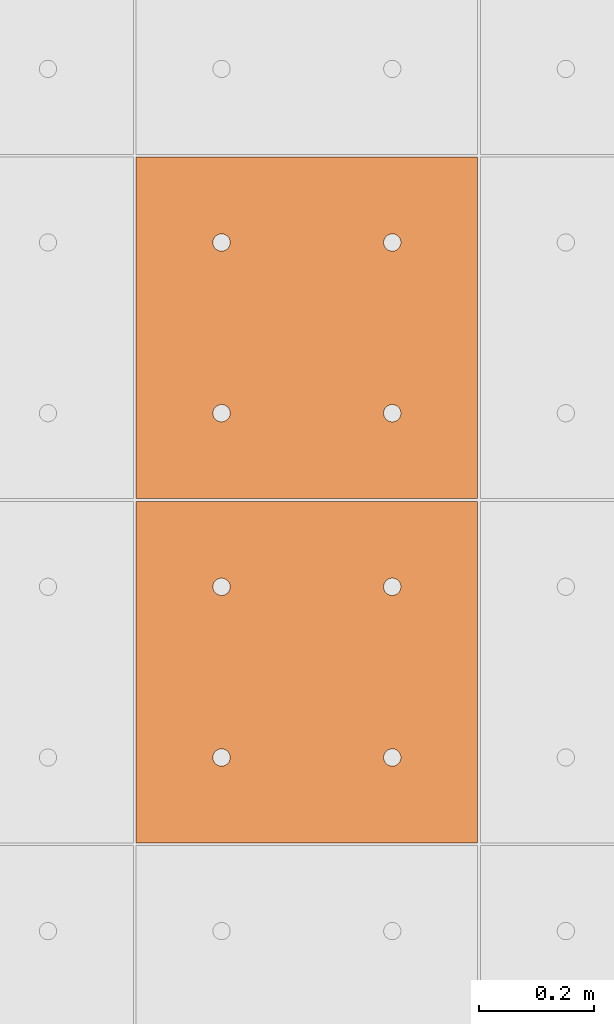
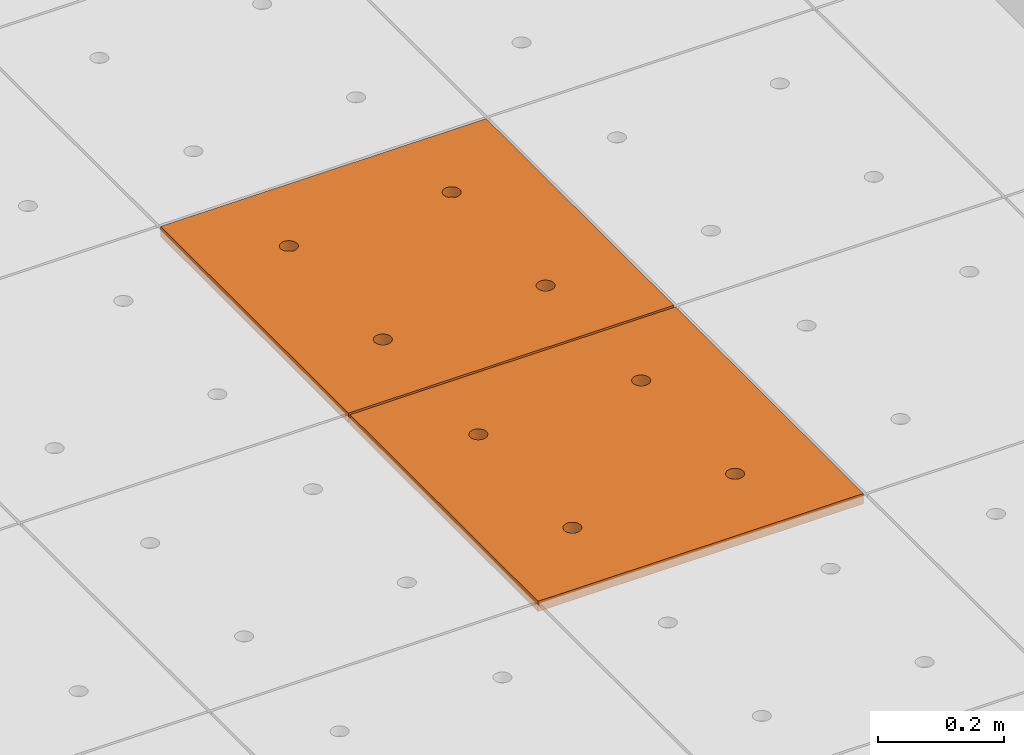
# One storey, part 227 of 338: 2 proxies, 1 element without a shape of its own.
"""IFC2X3 building model written with IfcOpenShell, lengths in millimetres."""

from ifc_helpers import new_model, entity, si_unit, converted_unit, derived_unit, money_unit, direction, frame, origin_with_axes, place, context, subcontext, project, spatial, faceted_brep, source, transform, mapped, material, type_object, type_shapes, element, aggregate, save


model = new_model("IFC2X3")

# Units and contexts
model_context = context("Model", 3, precision=0.01, world=origin_with_axes(), true_north=direction((0.0, 1.0)))
plan_context = context("Plan", 3, precision=0.01, world=origin_with_axes(), true_north=direction((0.0, 1.0)))
body_context = subcontext(model_context, "Body", "Model", "MODEL_VIEW")
ifc_project = project(units=[si_unit("LENGTHUNIT", "METRE", prefix="MILLI"), si_unit("AREAUNIT", "SQUARE_METRE"), si_unit("VOLUMEUNIT", "CUBIC_METRE"), converted_unit("PLANEANGLEUNIT", "DEGREE", entity("IfcPlaneAngleMeasure", 0.0174532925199), si_unit("PLANEANGLEUNIT", "RADIAN"), dimensions=[0, 0, 0, 0, 0, 0, 0]), money_unit("EUR"), converted_unit("TIMEUNIT", "Year", entity("IfcTimeMeasure", 31556926.0), si_unit("TIMEUNIT", "SECOND"), dimensions=[0, 0, 1, 0, 0, 0, 0]), si_unit("MASSUNIT", "GRAM", prefix="KILO"), si_unit("THERMODYNAMICTEMPERATUREUNIT", "DEGREE_CELSIUS"), si_unit("LUMINOUSINTENSITYUNIT", "LUMEN"), si_unit("ENERGYUNIT", "JOULE", prefix="MEGA"), derived_unit("THERMALCONDUCTANCEUNIT", [(si_unit("POWERUNIT", "WATT"), 1), (si_unit("LENGTHUNIT", "METRE"), -1), (si_unit("THERMODYNAMICTEMPERATUREUNIT", "KELVIN"), -1)]), derived_unit("SPECIFICHEATCAPACITYUNIT", [(si_unit("ENERGYUNIT", "JOULE"), 1), (si_unit("MASSUNIT", "GRAM", prefix="KILO"), -1), (si_unit("THERMODYNAMICTEMPERATUREUNIT", "KELVIN"), -1)]), derived_unit("MASSDENSITYUNIT", [(si_unit("MASSUNIT", "GRAM", prefix="KILO"), 1), (si_unit("VOLUMEUNIT", "CUBIC_METRE"), -1)])], contexts=[model_context, plan_context])

# Site, building, storey
site_placement = place(None, origin_with_axes())
site = spatial("IfcSite", under=ifc_project, at=site_placement, Name="Fortuinstraat Woensdrecht", CompositionType="ELEMENT")
building_placement = place(site_placement, origin_with_axes())
building = spatial("IfcBuilding", under=site, at=building_placement, Name="IKC Fortuna", CompositionType="ELEMENT")
storey_placement = place(building_placement, origin_with_axes())
storey = spatial("IfcBuildingStorey", under=building, at=storey_placement, Name="00 begane grond", CompositionType="ELEMENT", Elevation=0.0)

# Covering, proxies
covering_type = type_object("IfcCoveringType", Name="Curtain Wall Type", PredefinedType="CEILING")
covering_placement = place(storey_placement, frame((31656.9226967, 15748.5304598, 3210.0), z_axis=(0.0, 0.0, 1.0), x_axis=(1.0, 0.0, 0.0)))
covering = element("IfcCovering", 1, at=covering_placement, inside=storey, type_object=covering_type, Name="45_Plafondafwerking_P01", PredefinedType="CEILING")
ifc_material = material(Name="Gipsplaat")
building_element_proxy_type = type_object("IfcBuildingElementProxyType", Name="Main Panel 600 x 600 x 20", PredefinedType="NOTDEFINED")
shared_shape = source(origin_with_axes(), body_context, "Body", "Brep", [
    faceted_brep([(2.49999999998, 2.49999999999, -10.0), (300.0, 2.49999999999, -10.0), (300.0, 2.49999999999, 10.0), (2.49999999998, 2.49999999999, 10.0), (2.49999999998, 300.0, -10.0), (2.49999999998, 597.5, -10.0), (300.0, 597.5, -10.0), (597.5, 597.5, -10.0), (597.5, 300.0, -10.0), (597.5, 2.49999999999, -10.0), (166.25, 450.06232995, -10.0), (165.79423259, 452.64711538, -10.0), (164.896546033, 455.11348892, -10.0), (163.58421608, 457.38651108, -10.0), (161.897117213, 459.39711721, -10.0), (159.886511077, 461.08421608, -10.0), (157.613488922, 462.39654603, -10.0), (155.147115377, 463.29423259, -10.0), (152.562329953, 463.75, -10.0), (149.937670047, 463.75, -10.0), (147.352884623, 463.29423259, -10.0), (144.886511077, 462.39654603, -10.0), (142.613488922, 461.08421608, -10.0), (140.602882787, 459.39711721, -10.0), (138.91578392, 457.38651108, -10.0), (137.603453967, 455.11348892, -10.0), (136.705767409, 452.64711538, -10.0), (136.25, 450.06232995, -10.0), (136.25, 448.75, -10.0), (136.25, 447.43767005, -10.0), (136.705767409, 444.85288462, -10.0), (137.603453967, 442.38651108, -10.0), (138.91578392, 440.11348892, -10.0), (140.602882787, 438.10288279, -10.0), (142.613488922, 436.41578392, -10.0), (144.886511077, 435.10345397, -10.0), (147.352884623, 434.20576741, -10.0), (149.937670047, 433.75, -10.0), (152.562329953, 433.75, -10.0), (155.147115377, 434.20576741, -10.0), (157.613488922, 435.10345397, -10.0), (159.886511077, 436.41578392, -10.0), (161.897117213, 438.10288279, -10.0), (163.58421608, 440.11348892, -10.0), (164.896546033, 442.38651108, -10.0), (165.79423259, 444.85288462, -10.0), (166.25, 447.43767005, -10.0), (463.75, 450.06232995, -10.0), (463.29423259, 452.64711538, -10.0), (462.396546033, 455.11348892, -10.0), (461.08421608, 457.38651108, -10.0), (459.397117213, 459.39711721, -10.0), (457.386511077, 461.08421608, -10.0), (455.113488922, 462.39654603, -10.0), (452.647115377, 463.29423259, -10.0), (450.062329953, 463.75, -10.0), (447.437670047, 463.75, -10.0), (444.852884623, 463.29423259, -10.0), (442.386511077, 462.39654603, -10.0), (440.113488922, 461.08421608, -10.0), (438.102882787, 459.39711721, -10.0), (436.41578392, 457.38651108, -10.0), (435.103453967, 455.11348892, -10.0), (434.205767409, 452.64711538, -10.0), (433.75, 450.06232995, -10.0), (433.75, 448.75, -10.0), (433.75, 447.43767005, -10.0), (434.205767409, 444.85288462, -10.0), (435.103453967, 442.38651108, -10.0), (436.41578392, 440.11348892, -10.0), (438.102882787, 438.10288279, -10.0), (440.113488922, 436.41578392, -10.0), (442.386511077, 435.10345397, -10.0), (444.852884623, 434.20576741, -10.0), (447.437670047, 433.75, -10.0), (450.062329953, 433.75, -10.0), (452.647115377, 434.20576741, -10.0), (455.113488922, 435.10345397, -10.0), (457.386511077, 436.41578392, -10.0), (459.397117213, 438.10288279, -10.0), (461.08421608, 440.11348892, -10.0), (462.396546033, 442.38651108, -10.0), (463.29423259, 444.85288462, -10.0), (463.75, 447.43767005, -10.0), (463.75, 152.56232995, -10.0), (463.29423259, 155.14711538, -10.0), (462.396546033, 157.61348892, -10.0), (461.08421608, 159.88651108, -10.0), (459.397117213, 161.89711721, -10.0), (457.386511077, 163.58421608, -10.0), (455.113488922, 164.89654603, -10.0), (452.647115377, 165.79423259, -10.0), (450.062329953, 166.25, -10.0), (447.437670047, 166.25, -10.0), (444.852884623, 165.79423259, -10.0), (442.386511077, 164.89654603, -10.0), (440.113488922, 163.58421608, -10.0), (438.102882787, 161.89711721, -10.0), (436.41578392, 159.88651108, -10.0), (435.103453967, 157.61348892, -10.0), (434.205767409, 155.14711538, -10.0), (433.75, 152.56232995, -10.0), (433.75, 151.25, -10.0), (433.75, 149.93767005, -10.0), (434.205767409, 147.35288462, -10.0), (435.103453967, 144.88651108, -10.0), (436.41578392, 142.61348892, -10.0), (438.102882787, 140.60288279, -10.0), (440.113488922, 138.91578392, -10.0), (442.386511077, 137.60345397, -10.0), (444.852884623, 136.70576741, -10.0), (447.437670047, 136.25, -10.0), (450.062329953, 136.25, -10.0), (452.647115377, 136.70576741, -10.0), (455.113488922, 137.60345397, -10.0), (457.386511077, 138.91578392, -10.0), (459.397117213, 140.60288279, -10.0), (461.08421608, 142.61348892, -10.0), (462.396546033, 144.88651108, -10.0), (463.29423259, 147.35288462, -10.0), (463.75, 149.93767005, -10.0), (166.25, 152.56232995, -10.0), (165.79423259, 155.14711538, -10.0), (164.896546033, 157.61348892, -10.0), (163.58421608, 159.88651108, -10.0), (161.897117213, 161.89711721, -10.0), (159.886511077, 163.58421608, -10.0), (157.613488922, 164.89654603, -10.0), (155.147115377, 165.79423259, -10.0), (152.562329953, 166.25, -10.0), (149.937670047, 166.25, -10.0), (147.352884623, 165.79423259, -10.0), (144.886511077, 164.89654603, -10.0), (142.613488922, 163.58421608, -10.0), (140.602882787, 161.89711721, -10.0), (138.91578392, 159.88651108, -10.0), (137.603453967, 157.61348892, -10.0), (136.705767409, 155.14711538, -10.0), (136.25, 152.56232995, -10.0), (136.25, 151.25, -10.0), (136.25, 149.93767005, -10.0), (136.705767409, 147.35288462, -10.0), (137.603453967, 144.88651108, -10.0), (138.91578392, 142.61348892, -10.0), (140.602882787, 140.60288279, -10.0), (142.613488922, 138.91578392, -10.0), (144.886511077, 137.60345397, -10.0), (147.352884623, 136.70576741, -10.0), (149.937670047, 136.25, -10.0), (152.562329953, 136.25, -10.0), (155.147115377, 136.70576741, -10.0), (157.613488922, 137.60345397, -10.0), (159.886511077, 138.91578392, -10.0), (161.897117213, 140.60288279, -10.0), (163.58421608, 142.61348892, -10.0), (164.896546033, 144.88651108, -10.0), (165.79423259, 147.35288462, -10.0), (166.25, 149.93767005, -10.0), (597.5, 2.49999999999, 10.0), (597.5, 300.0, 10.0), (597.5, 597.5, 10.0), (300.0, 597.5, 10.0), (2.49999999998, 597.5, 10.0), (2.49999999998, 300.0, 10.0), (166.25, 450.06232995, 10.0), (166.25, 447.43767005, 10.0), (165.79423259, 444.85288462, 10.0), (164.896546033, 442.38651108, 10.0), (163.58421608, 440.11348892, 10.0), (161.897117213, 438.10288279, 10.0), (159.886511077, 436.41578392, 10.0), (157.613488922, 435.10345397, 10.0), (155.147115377, 434.20576741, 10.0), (152.562329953, 433.75, 10.0), (149.937670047, 433.75, 10.0), (147.352884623, 434.20576741, 10.0), (144.886511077, 435.10345397, 10.0), (142.613488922, 436.41578392, 10.0), (140.602882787, 438.10288279, 10.0), (138.91578392, 440.11348892, 10.0), (137.603453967, 442.38651108, 10.0), (136.705767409, 444.85288462, 10.0), (136.25, 447.43767005, 10.0), (136.25, 448.75, 10.0), (136.25, 450.06232995, 10.0), (136.705767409, 452.64711538, 10.0), (137.603453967, 455.11348892, 10.0), (138.91578392, 457.38651108, 10.0), (140.602882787, 459.39711721, 10.0), (142.613488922, 461.08421608, 10.0), (144.886511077, 462.39654603, 10.0), (147.352884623, 463.29423259, 10.0), (149.937670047, 463.75, 10.0), (152.562329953, 463.75, 10.0), (155.147115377, 463.29423259, 10.0), (157.613488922, 462.39654603, 10.0), (159.886511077, 461.08421608, 10.0), (161.897117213, 459.39711721, 10.0), (163.58421608, 457.38651108, 10.0), (164.896546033, 455.11348892, 10.0), (165.79423259, 452.64711538, 10.0), (463.75, 450.06232995, 10.0), (463.75, 447.43767005, 10.0), (463.29423259, 444.85288462, 10.0), (462.396546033, 442.38651108, 10.0), (461.08421608, 440.11348892, 10.0), (459.397117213, 438.10288279, 10.0), (457.386511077, 436.41578392, 10.0), (455.113488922, 435.10345397, 10.0), (452.647115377, 434.20576741, 10.0), (450.062329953, 433.75, 10.0), (447.437670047, 433.75, 10.0), (444.852884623, 434.20576741, 10.0), (442.386511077, 435.10345397, 10.0), (440.113488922, 436.41578392, 10.0), (438.102882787, 438.10288279, 10.0), (436.41578392, 440.11348892, 10.0), (435.103453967, 442.38651108, 10.0), (434.205767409, 444.85288462, 10.0), (433.75, 447.43767005, 10.0), (433.75, 448.75, 10.0), (433.75, 450.06232995, 10.0), (434.205767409, 452.64711538, 10.0), (435.103453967, 455.11348892, 10.0), (436.41578392, 457.38651108, 10.0), (438.102882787, 459.39711721, 10.0), (440.113488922, 461.08421608, 10.0), (442.386511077, 462.39654603, 10.0), (444.852884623, 463.29423259, 10.0), (447.437670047, 463.75, 10.0), (450.062329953, 463.75, 10.0), (452.647115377, 463.29423259, 10.0), (455.113488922, 462.39654603, 10.0), (457.386511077, 461.08421608, 10.0), (459.397117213, 459.39711721, 10.0), (461.08421608, 457.38651108, 10.0), (462.396546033, 455.11348892, 10.0), (463.29423259, 452.64711538, 10.0), (463.75, 152.56232995, 10.0), (463.75, 149.93767005, 10.0), (463.29423259, 147.35288462, 10.0), (462.396546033, 144.88651108, 10.0), (461.08421608, 142.61348892, 10.0), (459.397117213, 140.60288279, 10.0), (457.386511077, 138.91578392, 10.0), (455.113488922, 137.60345397, 10.0), (452.647115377, 136.70576741, 10.0), (450.062329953, 136.25, 10.0), (447.437670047, 136.25, 10.0), (444.852884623, 136.70576741, 10.0), (442.386511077, 137.60345397, 10.0), (440.113488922, 138.91578392, 10.0), (438.102882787, 140.60288279, 10.0), (436.41578392, 142.61348892, 10.0), (435.103453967, 144.88651108, 10.0), (434.205767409, 147.35288462, 10.0), (433.75, 149.93767005, 10.0), (433.75, 151.25, 10.0), (433.75, 152.56232995, 10.0), (434.205767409, 155.14711538, 10.0), (435.103453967, 157.61348892, 10.0), (436.41578392, 159.88651108, 10.0), (438.102882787, 161.89711721, 10.0), (440.113488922, 163.58421608, 10.0), (442.386511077, 164.89654603, 10.0), (444.852884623, 165.79423259, 10.0), (447.437670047, 166.25, 10.0), (450.062329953, 166.25, 10.0), (452.647115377, 165.79423259, 10.0), (455.113488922, 164.89654603, 10.0), (457.386511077, 163.58421608, 10.0), (459.397117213, 161.89711721, 10.0), (461.08421608, 159.88651108, 10.0), (462.396546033, 157.61348892, 10.0), (463.29423259, 155.14711538, 10.0), (166.25, 152.56232995, 10.0), (166.25, 149.93767005, 10.0), (165.79423259, 147.35288462, 10.0), (164.896546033, 144.88651108, 10.0), (163.58421608, 142.61348892, 10.0), (161.897117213, 140.60288279, 10.0), (159.886511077, 138.91578392, 10.0), (157.613488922, 137.60345397, 10.0), (155.147115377, 136.70576741, 10.0), (152.562329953, 136.25, 10.0), (149.937670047, 136.25, 10.0), (147.352884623, 136.70576741, 10.0), (144.886511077, 137.60345397, 10.0), (142.613488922, 138.91578392, 10.0), (140.602882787, 140.60288279, 10.0), (138.91578392, 142.61348892, 10.0), (137.603453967, 144.88651108, 10.0), (136.705767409, 147.35288462, 10.0), (136.25, 149.93767005, 10.0), (136.25, 151.25, 10.0), (136.25, 152.56232995, 10.0), (136.705767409, 155.14711538, 10.0), (137.603453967, 157.61348892, 10.0), (138.91578392, 159.88651108, 10.0), (140.602882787, 161.89711721, 10.0), (142.613488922, 163.58421608, 10.0), (144.886511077, 164.89654603, 10.0), (147.352884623, 165.79423259, 10.0), (149.937670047, 166.25, 10.0), (152.562329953, 166.25, 10.0), (155.147115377, 165.79423259, 10.0), (157.613488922, 164.89654603, 10.0), (159.886511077, 163.58421608, 10.0), (161.897117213, 161.89711721, 10.0), (163.58421608, 159.88651108, 10.0), (164.896546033, 157.61348892, 10.0), (165.79423259, 155.14711538, 10.0)], [[[0, 1, 2, 3]], [[0, 4, 5, 6, 7, 8, 9, 1], [10, 11, 12, 13, 14, 15, 16, 17, 18, 19, 20, 21, 22, 23, 24, 25, 26, 27, 28, 29, 30, 31, 32, 33, 34, 35, 36, 37, 38, 39, 40, 41, 42, 43, 44, 45, 46], [47, 48, 49, 50, 51, 52, 53, 54, 55, 56, 57, 58, 59, 60, 61, 62, 63, 64, 65, 66, 67, 68, 69, 70, 71, 72, 73, 74, 75, 76, 77, 78, 79, 80, 81, 82, 83], [84, 85, 86, 87, 88, 89, 90, 91, 92, 93, 94, 95, 96, 97, 98, 99, 100, 101, 102, 103, 104, 105, 106, 107, 108, 109, 110, 111, 112, 113, 114, 115, 116, 117, 118, 119, 120], [121, 122, 123, 124, 125, 126, 127, 128, 129, 130, 131, 132, 133, 134, 135, 136, 137, 138, 139, 140, 141, 142, 143, 144, 145, 146, 147, 148, 149, 150, 151, 152, 153, 154, 155, 156, 157]], [[1, 9, 158, 2]], [[3, 2, 158, 159, 160, 161, 162, 163], [164, 165, 166, 167, 168, 169, 170, 171, 172, 173, 174, 175, 176, 177, 178, 179, 180, 181, 182, 183, 184, 185, 186, 187, 188, 189, 190, 191, 192, 193, 194, 195, 196, 197, 198, 199, 200], [201, 202, 203, 204, 205, 206, 207, 208, 209, 210, 211, 212, 213, 214, 215, 216, 217, 218, 219, 220, 221, 222, 223, 224, 225, 226, 227, 228, 229, 230, 231, 232, 233, 234, 235, 236, 237], [238, 239, 240, 241, 242, 243, 244, 245, 246, 247, 248, 249, 250, 251, 252, 253, 254, 255, 256, 257, 258, 259, 260, 261, 262, 263, 264, 265, 266, 267, 268, 269, 270, 271, 272, 273, 274], [275, 276, 277, 278, 279, 280, 281, 282, 283, 284, 285, 286, 287, 288, 289, 290, 291, 292, 293, 294, 295, 296, 297, 298, 299, 300, 301, 302, 303, 304, 305, 306, 307, 308, 309, 310, 311]], [[4, 0, 3, 163]], [[5, 4, 163, 162]], [[6, 5, 162, 161]], [[7, 6, 161, 160]], [[8, 7, 160, 159]], [[9, 8, 159, 158]], [[11, 10, 164, 200]], [[12, 11, 200, 199]], [[13, 12, 199, 198]], [[14, 13, 198, 197]], [[15, 14, 197, 196]], [[16, 15, 196, 195]], [[17, 16, 195, 194]], [[18, 17, 194, 193]], [[19, 18, 193, 192]], [[20, 19, 192, 191]], [[21, 20, 191, 190]], [[22, 21, 190, 189]], [[23, 22, 189, 188]], [[24, 23, 188, 187]], [[25, 24, 187, 186]], [[26, 25, 186, 185]], [[27, 26, 185, 184]], [[28, 27, 184, 183]], [[29, 28, 183, 182]], [[30, 29, 182, 181]], [[31, 30, 181, 180]], [[32, 31, 180, 179]], [[33, 32, 179, 178]], [[34, 33, 178, 177]], [[35, 34, 177, 176]], [[36, 35, 176, 175]], [[37, 36, 175, 174]], [[38, 37, 174, 173]], [[39, 38, 173, 172]], [[40, 39, 172, 171]], [[41, 40, 171, 170]], [[42, 41, 170, 169]], [[43, 42, 169, 168]], [[44, 43, 168, 167]], [[45, 44, 167, 166]], [[46, 45, 166, 165]], [[10, 46, 165, 164]], [[48, 47, 201, 237]], [[49, 48, 237, 236]], [[50, 49, 236, 235]], [[51, 50, 235, 234]], [[52, 51, 234, 233]], [[53, 52, 233, 232]], [[54, 53, 232, 231]], [[55, 54, 231, 230]], [[56, 55, 230, 229]], [[57, 56, 229, 228]], [[58, 57, 228, 227]], [[59, 58, 227, 226]], [[60, 59, 226, 225]], [[61, 60, 225, 224]], [[62, 61, 224, 223]], [[63, 62, 223, 222]], [[64, 63, 222, 221]], [[65, 64, 221, 220]], [[66, 65, 220, 219]], [[67, 66, 219, 218]], [[68, 67, 218, 217]], [[69, 68, 217, 216]], [[70, 69, 216, 215]], [[71, 70, 215, 214]], [[72, 71, 214, 213]], [[73, 72, 213, 212]], [[74, 73, 212, 211]], [[75, 74, 211, 210]], [[76, 75, 210, 209]], [[77, 76, 209, 208]], [[78, 77, 208, 207]], [[79, 78, 207, 206]], [[80, 79, 206, 205]], [[81, 80, 205, 204]], [[82, 81, 204, 203]], [[83, 82, 203, 202]], [[47, 83, 202, 201]], [[85, 84, 238, 274]], [[86, 85, 274, 273]], [[87, 86, 273, 272]], [[88, 87, 272, 271]], [[89, 88, 271, 270]], [[90, 89, 270, 269]], [[91, 90, 269, 268]], [[92, 91, 268, 267]], [[93, 92, 267, 266]], [[94, 93, 266, 265]], [[95, 94, 265, 264]], [[96, 95, 264, 263]], [[97, 96, 263, 262]], [[98, 97, 262, 261]], [[99, 98, 261, 260]], [[100, 99, 260, 259]], [[101, 100, 259, 258]], [[102, 101, 258, 257]], [[103, 102, 257, 256]], [[104, 103, 256, 255]], [[105, 104, 255, 254]], [[106, 105, 254, 253]], [[107, 106, 253, 252]], [[108, 107, 252, 251]], [[109, 108, 251, 250]], [[110, 109, 250, 249]], [[111, 110, 249, 248]], [[112, 111, 248, 247]], [[113, 112, 247, 246]], [[114, 113, 246, 245]], [[115, 114, 245, 244]], [[116, 115, 244, 243]], [[117, 116, 243, 242]], [[118, 117, 242, 241]], [[119, 118, 241, 240]], [[120, 119, 240, 239]], [[84, 120, 239, 238]], [[122, 121, 275, 311]], [[123, 122, 311, 310]], [[124, 123, 310, 309]], [[125, 124, 309, 308]], [[126, 125, 308, 307]], [[127, 126, 307, 306]], [[128, 127, 306, 305]], [[129, 128, 305, 304]], [[130, 129, 304, 303]], [[131, 130, 303, 302]], [[132, 131, 302, 301]], [[133, 132, 301, 300]], [[134, 133, 300, 299]], [[135, 134, 299, 298]], [[136, 135, 298, 297]], [[137, 136, 297, 296]], [[138, 137, 296, 295]], [[139, 138, 295, 294]], [[140, 139, 294, 293]], [[141, 140, 293, 292]], [[142, 141, 292, 291]], [[143, 142, 291, 290]], [[144, 143, 290, 289]], [[145, 144, 289, 288]], [[146, 145, 288, 287]], [[147, 146, 287, 286]], [[148, 147, 286, 285]], [[149, 148, 285, 284]], [[150, 149, 284, 283]], [[151, 150, 283, 282]], [[152, 151, 282, 281]], [[153, 152, 281, 280]], [[154, 153, 280, 279]], [[155, 154, 279, 278]], [[156, 155, 278, 277]], [[157, 156, 277, 276]], [[121, 157, 276, 275]]]),
])
type_shapes(building_element_proxy_type, [shared_shape])
proxy_1_placement = place(covering_placement, frame((1800.0, -1200.0, 0.0), z_axis=(0.0, 0.0, 1.0), x_axis=(1.0, 0.0, 0.0)))
proxy_1 = element("IfcBuildingElementProxy", 2, at=proxy_1_placement, type_object=building_element_proxy_type, material=ifc_material, Name="__600x709 Rockfon Krios", context=body_context, shape_type="MappedRepresentation", body=[
    mapped(shared_shape, transform((300.0, 300.0, 0.0), x_axis=(-1.0, 0.0, 0.0), y_axis=(0.0, -1.0, 0.0), z_axis=(0.0, 0.0, 1.0))),
])
proxy_2_placement = place(covering_placement, frame((1800.0, -1800.0, 0.0), z_axis=(0.0, 0.0, 1.0), x_axis=(1.0, 0.0, 0.0)))
proxy_2 = element("IfcBuildingElementProxy", 3, at=proxy_2_placement, type_object=building_element_proxy_type, material=ifc_material, Name="__600x710 Rockfon Krios", context=body_context, shape_type="MappedRepresentation", body=[
    mapped(shared_shape, transform((300.0, 300.0, 0.0), x_axis=(-1.0, 0.0, 0.0), y_axis=(0.0, -1.0, 0.0), z_axis=(0.0, 0.0, 1.0))),
])
aggregate(covering, [proxy_1, proxy_2])

save(model, "model.ifc")
